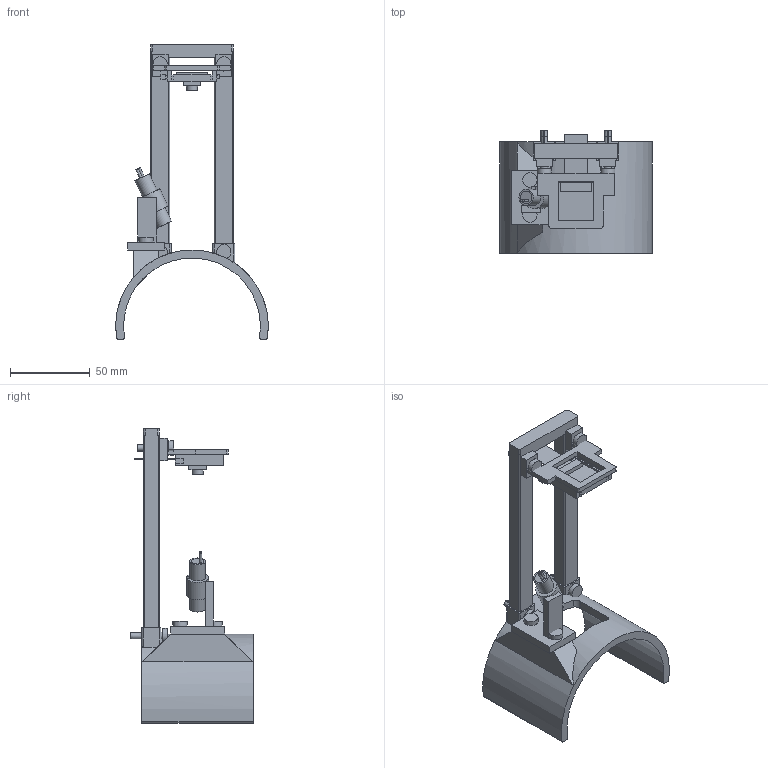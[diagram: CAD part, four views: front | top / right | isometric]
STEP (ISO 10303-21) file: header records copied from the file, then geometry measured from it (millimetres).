
FILE_DESCRIPTION(('Open CASCADE Model'),'2;1');
FILE_NAME('Open CASCADE Shape Model','2026-10-27T14:10:15',('Author'),( 'Open CASCADE'),'Open CASCADE STEP processor 7.9','Open CASCADE 7.9' ,'Unknown');
FILE_SCHEMA(('AUTOMOTIVE_DESIGN { 1 0 10303 214 1 1 1 1 }'));
Length unit declared in the file: millimetre
Products named in the file (17): C_rest_printed_standard; rest; laser_clip; tower; cassette; keeper; base_pin_-20; camera_pin_-20; base_pin_20; camera_pin_20; laser_pin_-11; laser_pin_11; PCB; lens_envelope; connector; laser; ribbon
Assembly tree (16 placements, depth 2):
  C_rest_printed_standard
    rest
    laser_clip
    tower
    cassette
    keeper
    base_pin_-20
    camera_pin_-20
    base_pin_20
    camera_pin_20
    laser_pin_-11
    laser_pin_11
    PCB
    lens_envelope
    connector
    laser
    ribbon
Bounding box: 95.99 x 77 x 184.93 mm (x, y, z)
Volume: 110192.9 mm3; surface area: 57826.1 mm2
Topology: 20 solids, 20 shells, 320 faces, 812 edges, 541 vertices
Faces by surface type: plane 242, cylinder 66, cone 11, torus 1
Full cylindrical faces by diameter (mm): 1.5 x2, 2.8 x1, 3 x1, 4.3 x14, 6.95 x1, 8 x2, 9 x6, 10 x1
Entity records: 21691 total; most frequent: CARTESIAN_POINT 5323, DIRECTION 2845, LINE 1665, VECTOR 1665, ORIENTED_EDGE 1624, PCURVE 1624, DEFINITIONAL_REPRESENTATION 1624, EDGE_CURVE 812
